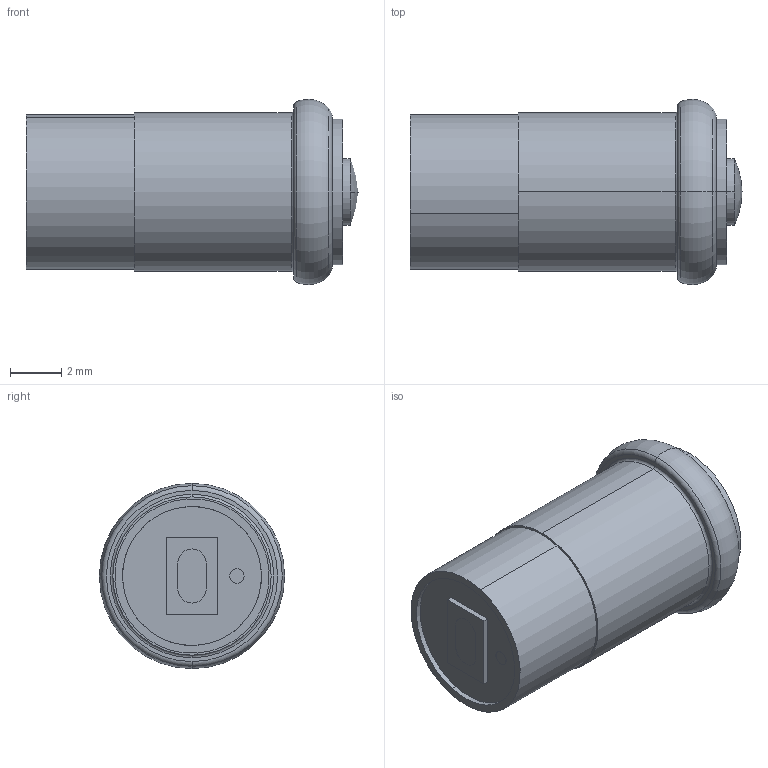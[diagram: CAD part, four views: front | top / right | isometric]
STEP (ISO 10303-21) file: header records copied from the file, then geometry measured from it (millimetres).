
FILE_DESCRIPTION (( 'STEP AP203' ), '1' );
FILE_NAME ('236 Series.STEP', '2016-08-04T08:57:11', ( '' ), ( '' ), 'SwSTEP 2.0', 'SolidWorks 2016', '' );
FILE_SCHEMA (( 'CONFIG_CONTROL_DESIGN' ));
Length unit declared in the file: millimetre
Products named in the file (5): MFCAPSTYLE1_marl; Part4^236series; Solder1_2.6mm Diam; COM4841_Shorter; 236 Series
Assembly tree (4 placements, depth 2):
  236 Series
    MFCAPSTYLE1_marl
    COM4841_Shorter
    Solder1_2.6mm Diam
    Part4^236series
Bounding box: 12.9 x 7.2 x 7.2 mm (x, y, z)
Volume: 176.9 mm3; surface area: 702.8 mm2
Topology: 4 solids, 4 shells, 59 faces, 118 edges, 75 vertices
Faces by surface type: cylinder 24, plane 21, torus 8, cone 4, sphere 2
Entity records: 2087 total; most frequent: DIRECTION 322, CARTESIAN_POINT 259, ORIENTED_EDGE 236, AXIS2_PLACEMENT_3D 138, EDGE_CURVE 118, VERTEX_POINT 75, CIRCLE 72, EDGE_LOOP 71
